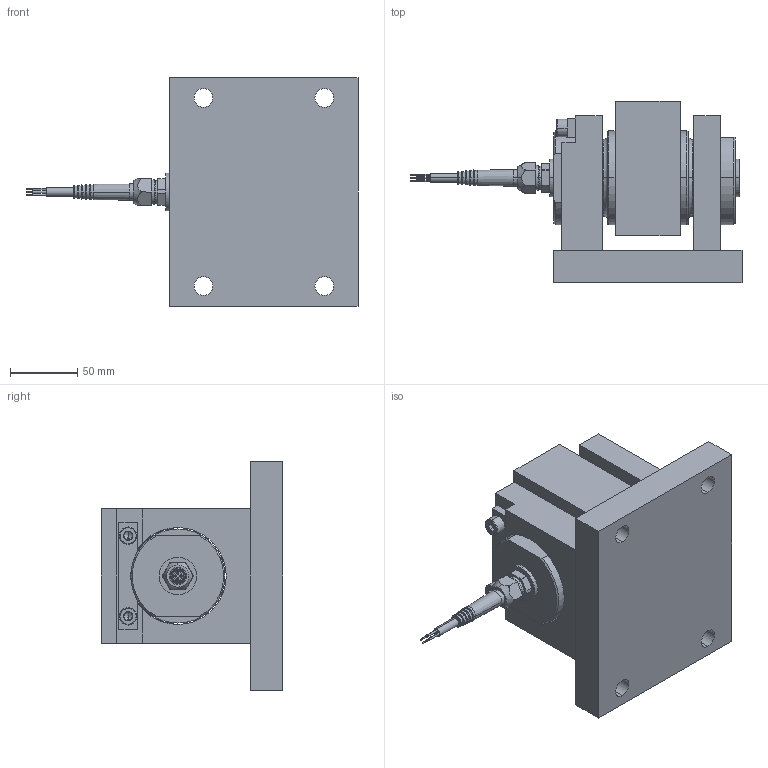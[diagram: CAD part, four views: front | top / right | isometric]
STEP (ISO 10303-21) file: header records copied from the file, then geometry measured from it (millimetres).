
FILE_DESCRIPTION (( 'STEP AP214' ), '1' );
FILE_NAME ('KOM-1 200 kN Module.STEP', '2021-03-15T10:03:39', ( '' ), ( '' ), 'SwSTEP 2.0', 'SolidWorks 2021', '' );
FILE_SCHEMA (( 'AUTOMOTIVE_DESIGN' ));
Length unit declared in the file: millimetre
Products named in the file (11): KOSD-40  200 kN; M8x20; 4100959r3; 6408228r0  Låsbleck KOM-1 200 kN; M26x1.5 - Lock - 600490r1; M26x1.5 - Pg9 - 6369829; pg 9 kabelförskruvning; Standardkabel 4-Cond PVC; 4102468r1 Fäste KOM-1 200 kN; KOM-1 200 kN Module; 5207872r1  Ok KOM-1  200 kN
Assembly tree (11 placements, depth 3):
  KOM-1 200 kN Module
    4102468r1 Fäste KOM-1 200 kN
    5207872r1  Ok KOM-1  200 kN
    6408228r0  Låsbleck KOM-1 200 kN
    KOSD-40  200 kN
      4100959r3
      M26x1.5 - Pg9 - 6369829
      M26x1.5 - Lock - 600490r1
      pg 9 kabelförskruvning
    M8x20  x2
    Standardkabel 4-Cond PVC
Bounding box: 247 x 135 x 170 mm (x, y, z)
Volume: 1606982.2 mm3; surface area: 213902.7 mm2
Topology: 10 solids, 13 shells, 376 faces, 827 edges, 501 vertices
Faces by surface type: plane 126, cylinder 117, cone 85, bspline 30, torus 18
Entity records: 11830 total; most frequent: CARTESIAN_POINT 2272, DIRECTION 1793, ORIENTED_EDGE 1528, EDGE_CURVE 764, AXIS2_PLACEMENT_3D 741, VERTEX_POINT 474, EDGE_LOOP 410, CIRCLE 408
